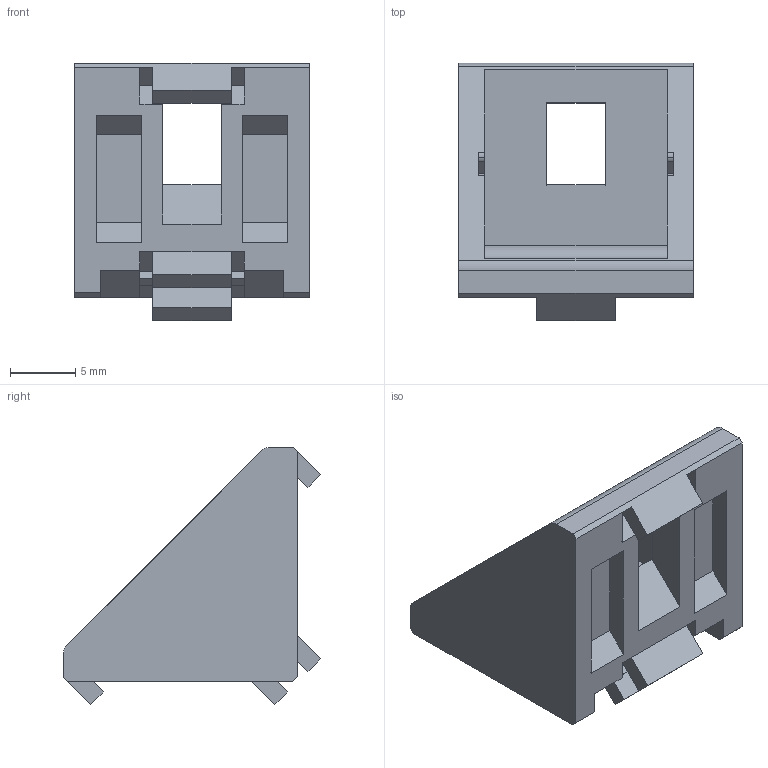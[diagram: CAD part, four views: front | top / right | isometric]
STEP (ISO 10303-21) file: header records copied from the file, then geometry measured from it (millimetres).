
FILE_DESCRIPTION(('FreeCAD Model'),'2;1');
FILE_NAME('Open CASCADE Shape Model','2021-05-04T11:41:47',('Author'),( ''),'Open CASCADE STEP processor 7.5','FreeCAD','Unknown');
FILE_SCHEMA(('AUTOMOTIVE_DESIGN { 1 0 10303 214 1 1 1 1 }'));
Length unit declared in the file: millimetre
Products named in the file (1): 20X20 BRACKET
Bounding box: 18 x 19.77 x 19.77 mm (x, y, z)
Volume: 1798.1 mm3; surface area: 2171.8 mm2
Topology: 1 solids, 1 shells, 97 faces, 268 edges, 176 vertices
Faces by surface type: plane 86, cylinder 11
Entity records: 6566 total; most frequent: CARTESIAN_POINT 1102, DIRECTION 1018, LINE 760, VECTOR 760, ORIENTED_EDGE 536, PCURVE 536, DEFINITIONAL_REPRESENTATION 536, EDGE_CURVE 268
